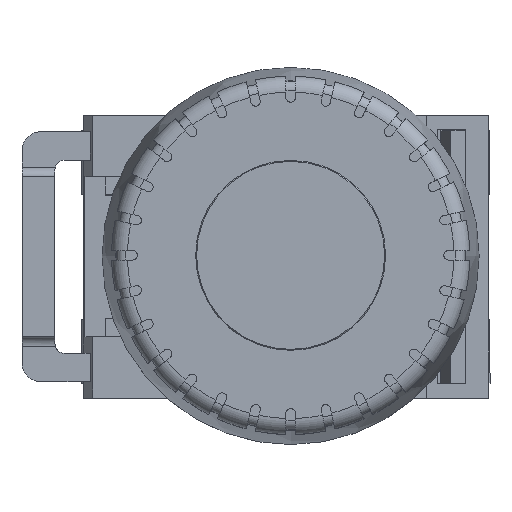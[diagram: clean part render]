
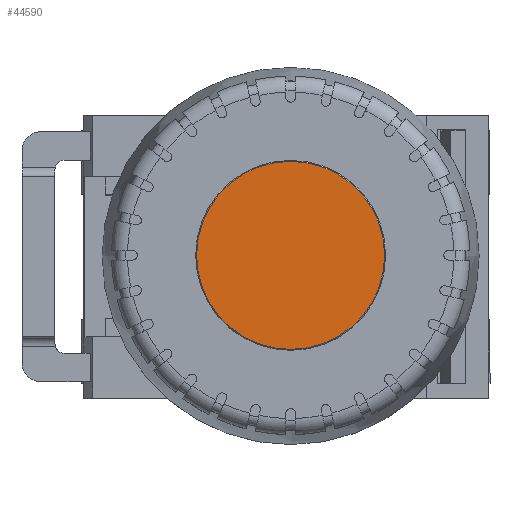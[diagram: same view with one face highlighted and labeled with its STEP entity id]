
A CAD part, top view. The second image highlights one B-rep face of the part: STEP entity #44590.
In plain terms, the highlighted planar face has unit normal (0, 0, 1).
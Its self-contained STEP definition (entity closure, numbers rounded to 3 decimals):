
#44539=CARTESIAN_POINT('',(9.975,0.,81.7));
#44540=VERTEX_POINT('',#44539);
#44541=CARTESIAN_POINT('',(0.,0.,81.7));
#44542=DIRECTION('',(0.0,0.0,-1.0));
#44543=DIRECTION('',(-1.0,0.0,0.0));
#44544=AXIS2_PLACEMENT_3D('',#44541,#44542,#44543);
#44545=CIRCLE('',#44544,9.975);
#44546=EDGE_CURVE('',#44540,#44540,#44545,.T.);
#44582=CARTESIAN_POINT('',(0.,0.,81.7));
#44583=DIRECTION('',(0.0,0.0,-1.0));
#44584=DIRECTION('',(-1.0,0.0,0.0));
#44585=AXIS2_PLACEMENT_3D('',#44582,#44583,#44584);
#44586=PLANE('',#44585);
#44587=ORIENTED_EDGE('',*,*,#44546,.F.);
#44588=EDGE_LOOP('',(#44587));
#44589=FACE_OUTER_BOUND('',#44588,.T.);
#44590=ADVANCED_FACE('',(#44589),#44586,.F.);
